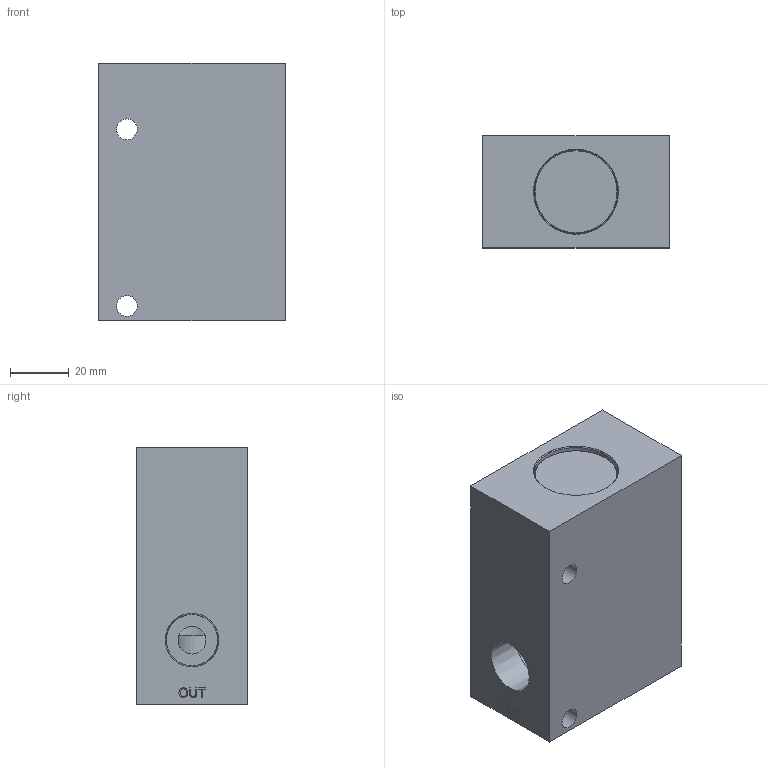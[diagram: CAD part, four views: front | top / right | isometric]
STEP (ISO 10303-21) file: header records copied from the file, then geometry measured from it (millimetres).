
FILE_DESCRIPTION(/* description */ (''),/* implementation_level */ '2;1');
FILE_NAME(/* name */ 'L:\ALADCO\Advertising\3D Content\Valves\Step Files - 2014-11-19 thru Present\42500X.stp',/* time_stamp */ '2014-11-19T16:36:21-06:00',/* author */ ('dmatz'),/* organization */ (''),/* preprocessor_version */ 'ST-DEVELOPER v15.2',/* originating_system */ 'Autodesk Inventor 2014',/* authorisation */ '');
FILE_SCHEMA (('AUTOMOTIVE_DESIGN { 1 0 10303 214 3 1 1 }'));
Length unit declared in the file: inch
Products named in the file (4): 555000NPTF; 321002; 301076; 525001
Bounding box: 63.5 x 38.1 x 87.99 mm (x, y, z)
Volume: 171819.9 mm3; surface area: 39498.2 mm2
Topology: 3 solids, 3 shells, 170 faces, 396 edges, 260 vertices
Faces by surface type: plane 95, bspline 26, cylinder 24, cone 16, torus 9
Full cylindrical faces by diameter (mm): 1.499 x1, 7.112 x2, 9.144 x1, 9.525 x2, 10.719 x1, 12.7 x1, 13.081 x1, 15.081 x1, 17.475 x2, 17.577 x1, 22.149 x1, 24.409 x1, 24.435 x1, 25.4 x2, 28.524 x4, 28.575 x2
Entity records: 5028 total; most frequent: CARTESIAN_POINT 1322, ORIENTED_EDGE 654, DIRECTION 646, EDGE_CURVE 327, EDGE_LOOP 262, VERTEX_POINT 243, AXIS2_PLACEMENT_3D 223, LINE 200
